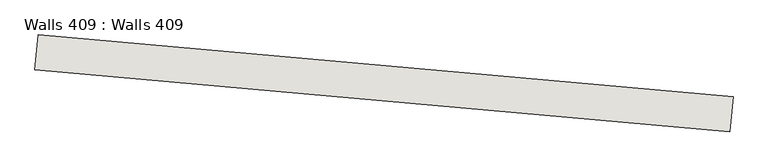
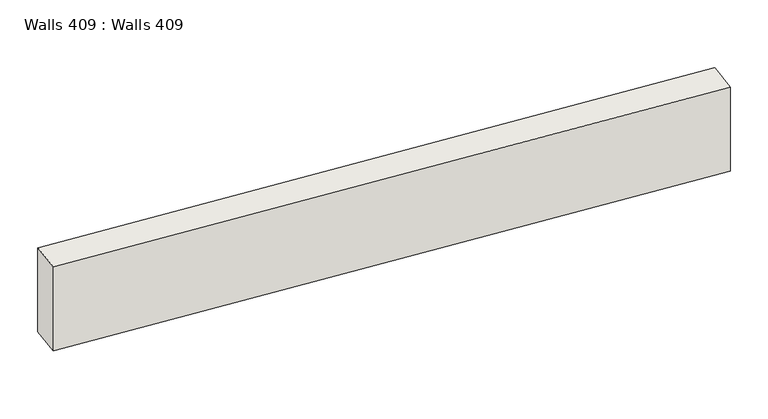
"""IFC4 building model written with IfcOpenShell, lengths in millimetres: wall geometry, Walls 409 : Walls 409."""

from ifc_helpers import new_model, si_unit, frame, origin, place, context, project, spatial, polyline, outline, extrude, source, transform, mapped, element, save


def walls_409_walls_409_bdc302cd(model_context):
    return source(origin(), model_context, "Body", "SweptSolid", [
        extrude(outline(polyline([(-531201.7056425, -431354.8108225), (-531237.2005726, -431753.2328474), (-539205.6410709, -431043.3342462), (-539170.1461408, -430644.9122213), (-531201.7056425, -431354.8108225)])), frame((0.0, 0.0, 636860.0), z_axis=(0.0, 0.0, 1.0), x_axis=(1.0, 0.0, 0.0)), (0.0, 0.0, 1.0), 1100.0),
    ])


if __name__ == "__main__":
    model = new_model("IFC4")
    model_context = context("Model", 3, world=origin())
    ifc_project = project(units=[si_unit("LENGTHUNIT", "METRE", prefix="MILLI")], contexts=[model_context])
    site = spatial("IfcSite", under=ifc_project)
    building = spatial("IfcBuilding", under=site)
    placement = place(None, origin())
    walls_409_walls_409_shape = walls_409_walls_409_bdc302cd(model_context)
    element("IfcWall", 1, ObjectType="Walls 409 : Walls 409", at=placement, inside=building, context=model_context, shape_type="MappedRepresentation", body=[
        mapped(walls_409_walls_409_shape, transform((0.0, 0.0, 0.0), x_axis=(1.0, 0.0, 0.0), y_axis=(0.0, 1.0, 0.0), z_axis=(0.0, 0.0, 1.0))),
    ])
    save(model, "model.ifc")
